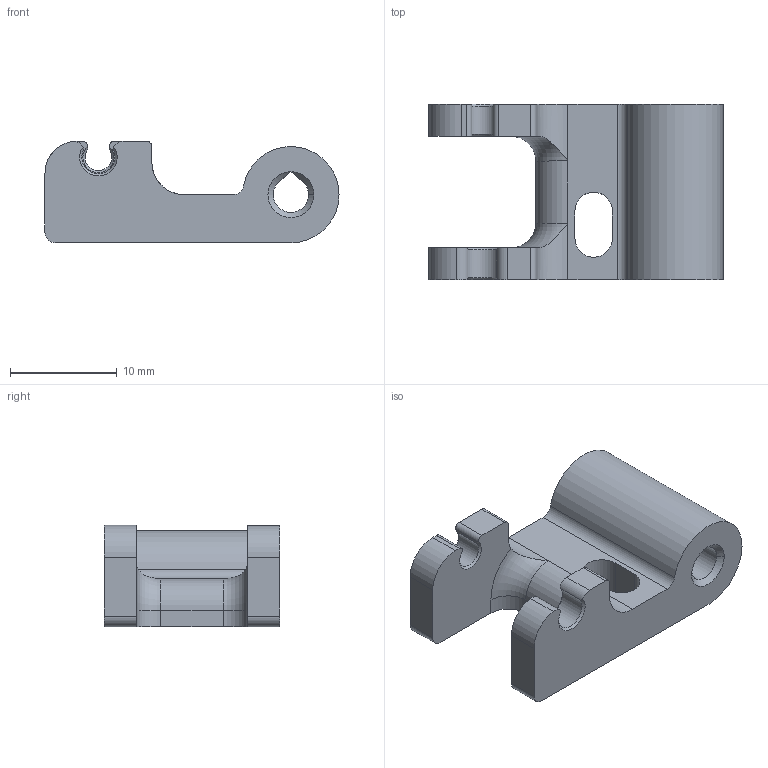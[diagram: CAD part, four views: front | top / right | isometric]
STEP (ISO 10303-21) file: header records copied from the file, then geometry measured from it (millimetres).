
FILE_DESCRIPTION((''),'2;1');
FILE_NAME('_000_9990002','2024-10-21T08:38:30',('Administrator'),(''),'CREO PARAMETRIC BY PTC INC, 2024063','CREO PARAMETRIC BY PTC INC, 2024063','');
FILE_SCHEMA(('CONFIG_CONTROL_DESIGN'));
Length unit declared in the file: millimetre
Products named in the file (1): _000_9990002
Bounding box: 27.5 x 16.4 x 9.5 mm (x, y, z)
Volume: 2029.8 mm3; surface area: 1691.3 mm2
Topology: 1 solids, 1 shells, 52 faces, 142 edges, 92 vertices
Faces by surface type: cylinder 22, plane 20, cone 8, torus 2
Entity records: 1742 total; most frequent: CARTESIAN_POINT 360, DIRECTION 284, ORIENTED_EDGE 284, EDGE_CURVE 142, AXIS2_PLACEMENT_3D 108, VERTEX_POINT 92, VECTOR 68, LINE 68
